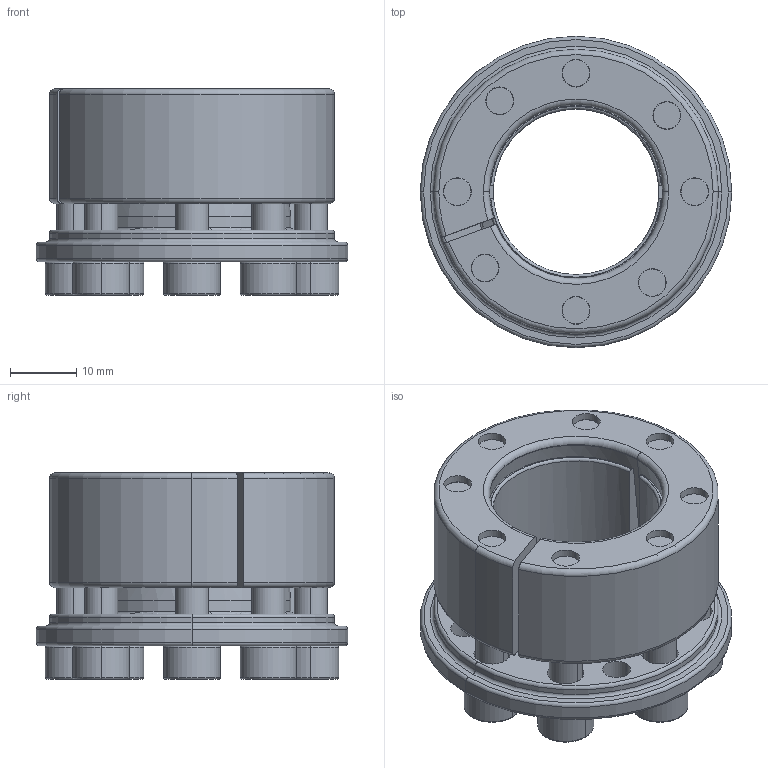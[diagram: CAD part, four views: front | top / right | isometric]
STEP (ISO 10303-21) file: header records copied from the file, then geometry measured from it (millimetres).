
FILE_DESCRIPTION (( 'STEP AP203' ), '1' );
FILE_NAME ('SAPL-A-25-43.STEP', '2013-07-22T08:05:00', ( 'MYCOM' ), ( '' ), 'SwSTEP 2.0', 'SolidWorks 2012', '' );
FILE_SCHEMA (( 'CONFIG_CONTROL_DESIGN' ));
Length unit declared in the file: millimetre
Products named in the file (1): SAPL-A-25-43
Bounding box: 47 x 47 x 31.1 mm (x, y, z)
Volume: 24393.6 mm3; surface area: 12871.7 mm2
Topology: 1 solids, 1 shells, 374 faces, 915 edges, 540 vertices
Faces by surface type: plane 135, cylinder 99, torus 79, cone 61
Entity records: 11223 total; most frequent: CARTESIAN_POINT 2120, DIRECTION 2080, ORIENTED_EDGE 1798, EDGE_CURVE 899, AXIS2_PLACEMENT_3D 856, VERTEX_POINT 540, CIRCLE 481, EDGE_LOOP 417
